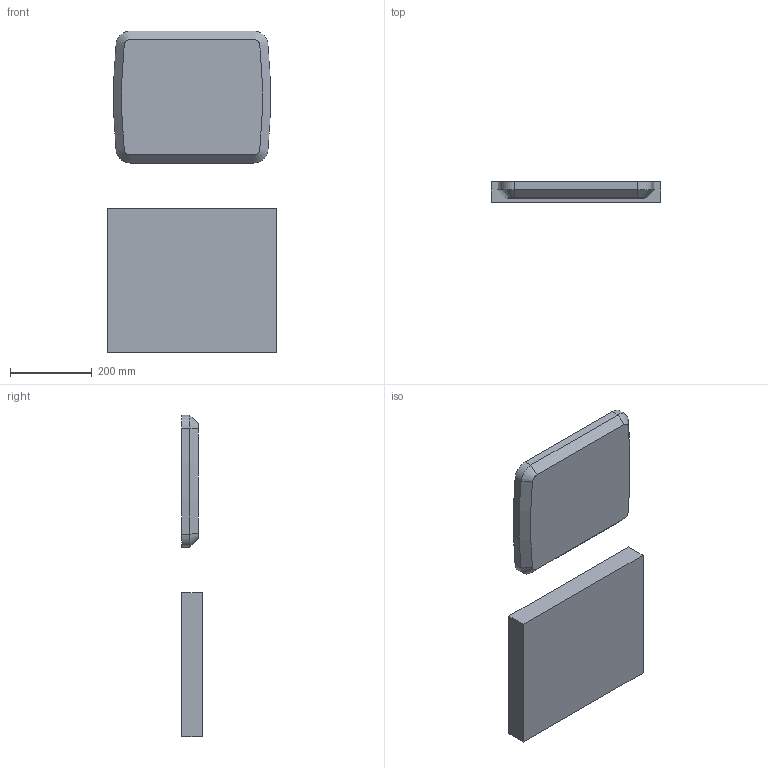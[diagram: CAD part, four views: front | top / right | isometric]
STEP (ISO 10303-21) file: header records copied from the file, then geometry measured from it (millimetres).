
FILE_DESCRIPTION (( 'STEP AP203' ), '1' );
FILE_NAME ('STA-300-455-V01.STEP', '2018-06-21T07:52:56', ( '' ), ( '' ), 'SwSTEP 2.0', 'SolidWorks 2016', '' );
FILE_SCHEMA (( 'CONFIG_CONTROL_DESIGN' ));
Length unit declared in the file: millimetre
Products named in the file (1): STA-300-455-V01
Bounding box: 415 x 50 x 788 mm (x, y, z)
Volume: 7324750 mm3; surface area: 686854.8 mm2
Topology: 2 solids, 2 shells, 41 faces, 92 edges, 56 vertices
Faces by surface type: plane 17, cylinder 12, cone 12
Entity records: 1209 total; most frequent: DIRECTION 212, CARTESIAN_POINT 190, ORIENTED_EDGE 184, EDGE_CURVE 92, AXIS2_PLACEMENT_3D 78, VECTOR 56, VERTEX_POINT 56, LINE 56
